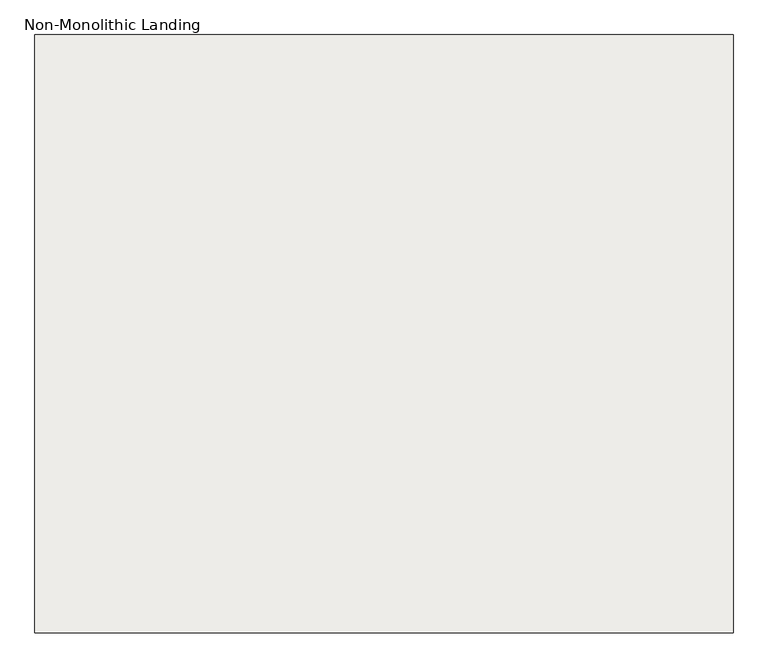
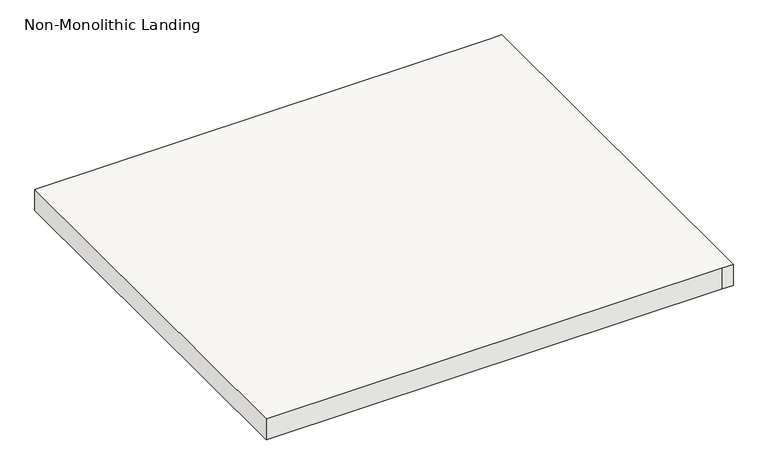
"""IFC4 building model written with IfcOpenShell, lengths in millimetres: slab geometry, Non-Monolithic Landing."""

from ifc_helpers import new_model, si_unit, frame, origin, place, context, project, spatial, polyline, outline, extrude, source, transform, mapped, element, save


def non_monolithic_landing_66aec8ba(model_context):
    return source(origin(), model_context, "Body", "SweptSolid", [
        extrude(outline(polyline([(5926.9873344, -4784.1653686), (6968.3873344, -4784.1653686), (6993.7873344, -4784.1653686), (6993.7873344, -5698.5653686), (6968.3873344, -5698.5653686), (5926.9873344, -5698.5653686), (5926.9873344, -4784.1653686)])), frame((0.0, 0.0, 2069.5478261), z_axis=(0.0, 0.0, 1.0), x_axis=(1.0, 0.0, 0.0)), (0.0, 0.0, 1.0), 50.8),
    ])


if __name__ == "__main__":
    model = new_model("IFC4")
    model_context = context("Model", 3, world=origin())
    ifc_project = project(units=[si_unit("LENGTHUNIT", "METRE", prefix="MILLI")], contexts=[model_context])
    site = spatial("IfcSite", under=ifc_project)
    building = spatial("IfcBuilding", under=site)
    placement = place(None, origin())
    non_monolithic_landing_shape = non_monolithic_landing_66aec8ba(model_context)
    element("IfcSlab", 1, ObjectType="Non-Monolithic Landing", at=placement, inside=building, context=model_context, shape_type="MappedRepresentation", body=[
        mapped(non_monolithic_landing_shape, transform((0.0, 0.0, 0.0), x_axis=(1.0, 0.0, 0.0), y_axis=(0.0, 1.0, 0.0), z_axis=(0.0, 0.0, 1.0))),
    ])
    save(model, "model.ifc")
